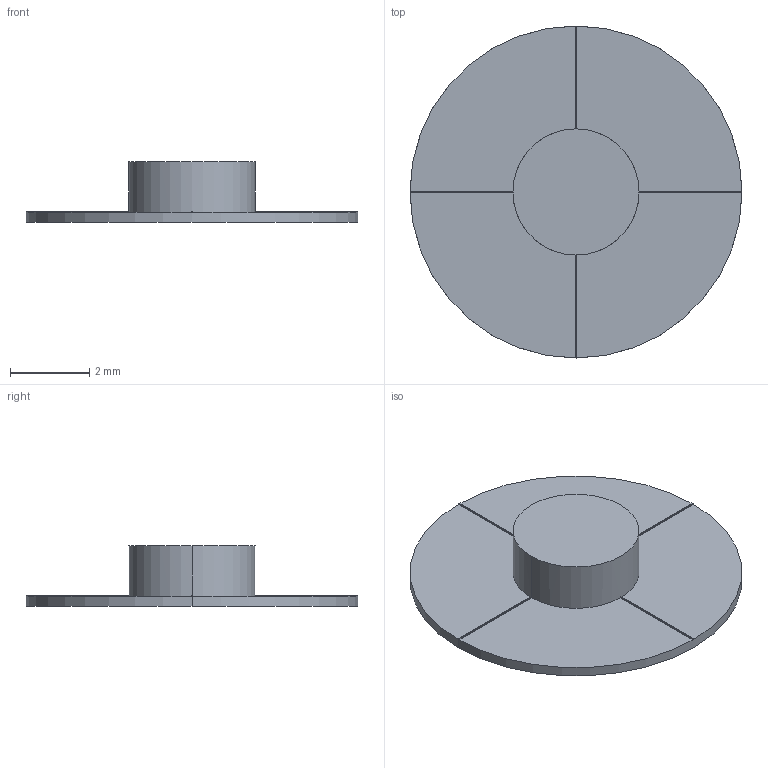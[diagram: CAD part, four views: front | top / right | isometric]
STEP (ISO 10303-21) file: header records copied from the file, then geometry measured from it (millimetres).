
FILE_DESCRIPTION((''),'2;1');
FILE_NAME('CONTACT_SIM_DUMMY-10','2020-09-24T20:54:33',('ccole'),(''),'CREO PARAMETRIC BY PTC INC, 2019292','CREO PARAMETRIC BY PTC INC, 2019292','');
FILE_SCHEMA(('CONFIG_CONTROL_DESIGN'));
Length unit declared in the file: inch
Products named in the file (1): CONTACT_SIM_DUMMY-10
Bounding box: 8.36 x 8.36 x 1.52 mm (x, y, z)
Volume: 24 mm3; surface area: 129.6 mm2
Topology: 1 solids, 1 shells, 26 faces, 64 edges, 40 vertices
Faces by surface type: plane 22, cylinder 4
Entity records: 802 total; most frequent: CARTESIAN_POINT 142, DIRECTION 128, ORIENTED_EDGE 128, EDGE_CURVE 64, AXIS2_PLACEMENT_3D 44, VECTOR 40, LINE 40, VERTEX_POINT 40
